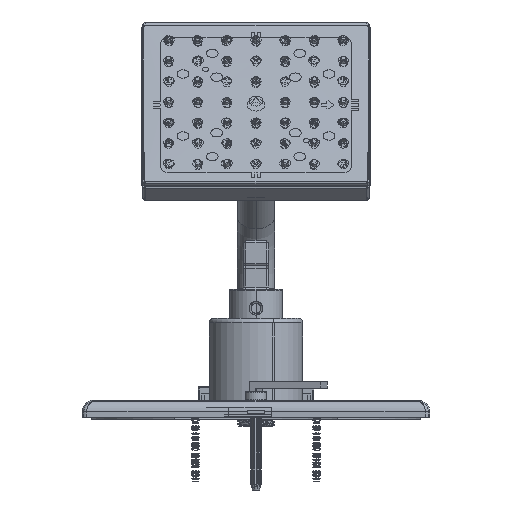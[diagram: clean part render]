
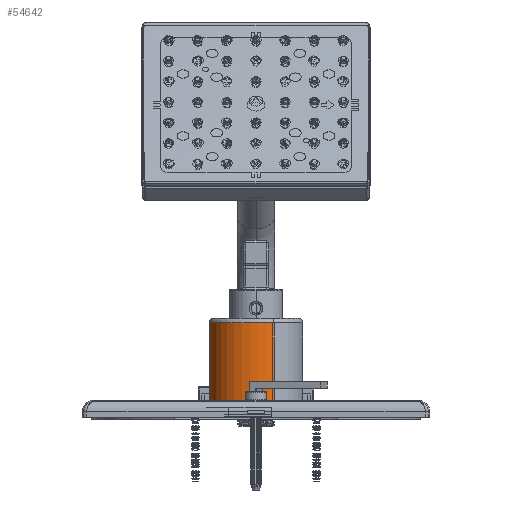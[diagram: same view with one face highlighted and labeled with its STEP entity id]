
A CAD part, front view. The second image highlights one B-rep face of the part: STEP entity #54642.
In plain terms, the highlighted cylindrical face has radius 25.749 mm (diameter 51.498 mm), a partial arc.
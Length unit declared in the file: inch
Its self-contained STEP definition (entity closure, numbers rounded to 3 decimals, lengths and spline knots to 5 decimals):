
#1155 = VERTEX_POINT ( 'NONE', #20519 ) ;
#4710 = LINE ( 'NONE', #21701, #41789 ) ;
#5281 = CIRCLE ( 'NONE', #56167, 1.01375 ) ;
#8261 = VECTOR ( 'NONE', #69836, 39.37008 ) ;
#9881 = ORIENTED_EDGE ( 'NONE', *, *, #67503, .T. ) ;
#10430 = CYLINDRICAL_SURFACE ( 'NONE', #61185, 1.01375 ) ;
#10565 = EDGE_LOOP ( 'NONE', ( #9881, #49984, #49457, #70082 ) ) ;
#12027 = DIRECTION ( 'NONE',  ( 0., 0., 1. ) ) ;
#13672 = VERTEX_POINT ( 'NONE', #52963 ) ;
#15924 = DIRECTION ( 'NONE',  ( 0., 0., 1. ) ) ;
#19836 = LINE ( 'NONE', #24555, #8261 ) ;
#20519 = CARTESIAN_POINT ( 'NONE',  ( 0.38832, -0.93643, 2.04312 ) ) ;
#21701 = CARTESIAN_POINT ( 'NONE',  ( 0.38832, -0.93643, 0.19612 ) ) ;
#23868 = DIRECTION ( 'NONE',  ( -0.383, 0.924, 0. ) ) ;
#23944 = CARTESIAN_POINT ( 'NONE',  ( 0., 0., 0.19612 ) ) ;
#24555 = CARTESIAN_POINT ( 'NONE',  ( -0.38832, 0.93643, 0.19612 ) ) ;
#26485 = EDGE_CURVE ( 'NONE', #13672, #1155, #4710, .T. ) ;
#33642 = CARTESIAN_POINT ( 'NONE',  ( 0., 0., 2.04312 ) ) ;
#34450 = DIRECTION ( 'NONE',  ( -0.383, 0.924, 0. ) ) ;
#34770 = CARTESIAN_POINT ( 'NONE',  ( -0.38832, 0.93643, 0.19612 ) ) ;
#34945 = VERTEX_POINT ( 'NONE', #34770 ) ;
#37053 = EDGE_CURVE ( 'NONE', #1155, #45480, #40398, .T. ) ;
#40398 = CIRCLE ( 'NONE', #71602, 1.01375 ) ;
#40801 = EDGE_CURVE ( 'NONE', #34945, #45480, #19836, .T. ) ;
#41789 = VECTOR ( 'NONE', #15924, 39.37008 ) ;
#45480 = VERTEX_POINT ( 'NONE', #69512 ) ;
#49457 = ORIENTED_EDGE ( 'NONE', *, *, #37053, .T. ) ;
#49984 = ORIENTED_EDGE ( 'NONE', *, *, #26485, .T. ) ;
#51047 = DIRECTION ( 'NONE',  ( 0., 0., -1. ) ) ;
#52963 = CARTESIAN_POINT ( 'NONE',  ( 0.38832, -0.93643, 0.19612 ) ) ;
#54642 = ADVANCED_FACE ( 'NONE', ( #58979 ), #10430, .T. ) ;
#56167 = AXIS2_PLACEMENT_3D ( 'NONE', #23944, #12027, #34450 ) ;
#58979 = FACE_OUTER_BOUND ( 'NONE', #10565, .T. ) ;
#61185 = AXIS2_PLACEMENT_3D ( 'NONE', #64764, #71300, #65849 ) ;
#64764 = CARTESIAN_POINT ( 'NONE',  ( 0., 0., 0.19612 ) ) ;
#65849 = DIRECTION ( 'NONE',  ( -0.383, 0.924, 0. ) ) ;
#67503 = EDGE_CURVE ( 'NONE', #34945, #13672, #5281, .T. ) ;
#69512 = CARTESIAN_POINT ( 'NONE',  ( -0.38832, 0.93643, 2.04312 ) ) ;
#69836 = DIRECTION ( 'NONE',  ( 0., 0., 1. ) ) ;
#70082 = ORIENTED_EDGE ( 'NONE', *, *, #40801, .F. ) ;
#71300 = DIRECTION ( 'NONE',  ( 0., 0., 1. ) ) ;
#71602 = AXIS2_PLACEMENT_3D ( 'NONE', #33642, #51047, #23868 ) ;
